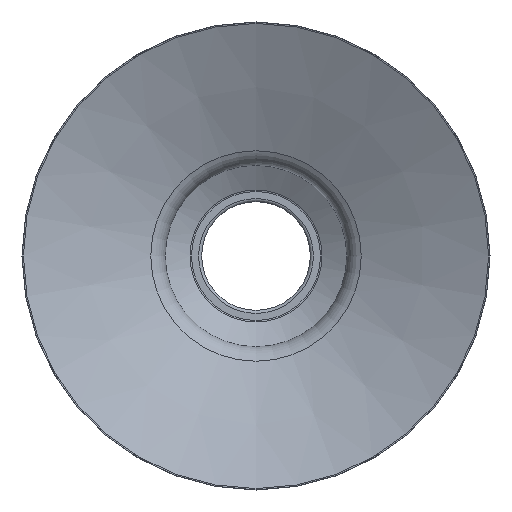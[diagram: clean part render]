
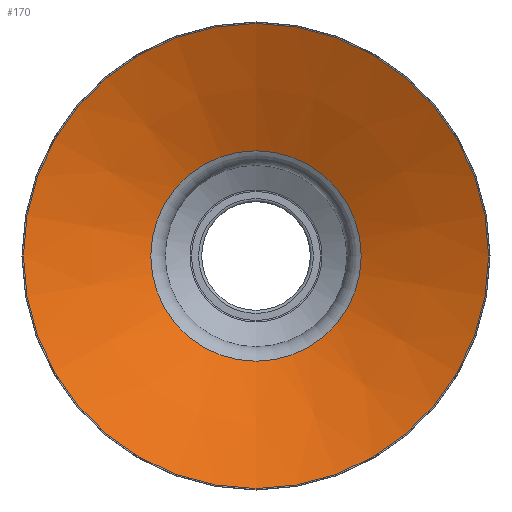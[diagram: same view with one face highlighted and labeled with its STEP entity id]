
A CAD part, front view. The second image highlights one B-rep face of the part: STEP entity #170.
In plain terms, the highlighted conical face has half-angle 65.592 degrees and reference radius 14.55 mm.
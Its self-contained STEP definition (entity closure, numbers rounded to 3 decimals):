
#30 = DIRECTION ( 'NONE',  ( 0., 0., 1. ) ) ;
#52 = AXIS2_PLACEMENT_3D ( 'NONE', #224, #551, #30 ) ;
#53 = DIRECTION ( 'NONE',  ( 0., 0., 1. ) ) ;
#94 = EDGE_LOOP ( 'NONE', ( #598 ) ) ;
#118 = EDGE_LOOP ( 'NONE', ( #845 ) ) ;
#135 = VERTEX_POINT ( 'NONE', #729 ) ;
#170 = ADVANCED_FACE ( 'NONE', ( #280, #403 ), #748, .F. ) ;
#177 = AXIS2_PLACEMENT_3D ( 'NONE', #629, #566, #53 ) ;
#224 = CARTESIAN_POINT ( 'NONE',  ( 0., -37.619, 0. ) ) ;
#280 = FACE_BOUND ( 'NONE', #94, .T. ) ;
#292 = DIRECTION ( 'NONE',  ( 0., 0., -1. ) ) ;
#347 = CIRCLE ( 'NONE', #177, 6.584 ) ;
#403 = FACE_OUTER_BOUND ( 'NONE', #118, .T. ) ;
#429 = CIRCLE ( 'NONE', #52, 14.551 ) ;
#482 = EDGE_CURVE ( 'NONE', #135, #135, #429, .T. ) ;
#551 = DIRECTION ( 'NONE',  ( 0., 1., 0. ) ) ;
#566 = DIRECTION ( 'NONE',  ( 0., 1., 0. ) ) ;
#589 = VERTEX_POINT ( 'NONE', #799 ) ;
#598 = ORIENTED_EDGE ( 'NONE', *, *, #846, .T. ) ;
#601 = CARTESIAN_POINT ( 'NONE',  ( 0., -37.619, 0. ) ) ;
#605 = AXIS2_PLACEMENT_3D ( 'NONE', #601, #814, #292 ) ;
#629 = CARTESIAN_POINT ( 'NONE',  ( 0., -34.003, 0. ) ) ;
#729 = CARTESIAN_POINT ( 'NONE',  ( 0., -37.619, 14.551 ) ) ;
#748 = CONICAL_SURFACE ( 'NONE', #605, 14.551, 1.145 ) ;
#799 = CARTESIAN_POINT ( 'NONE',  ( 0., -34.003, 6.584 ) ) ;
#814 = DIRECTION ( 'NONE',  ( 0., -1., 0. ) ) ;
#845 = ORIENTED_EDGE ( 'NONE', *, *, #482, .F. ) ;
#846 = EDGE_CURVE ( 'NONE', #589, #589, #347, .T. ) ;
